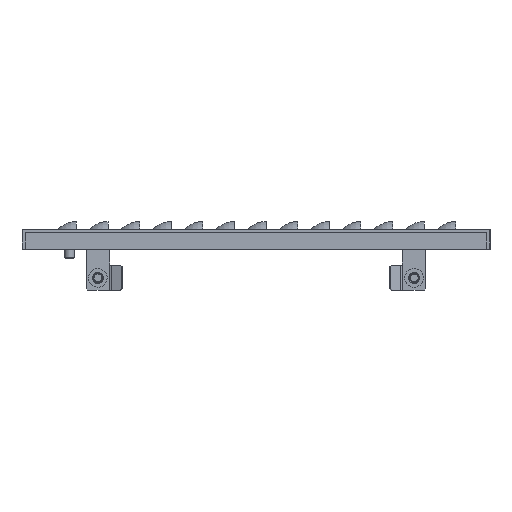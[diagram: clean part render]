
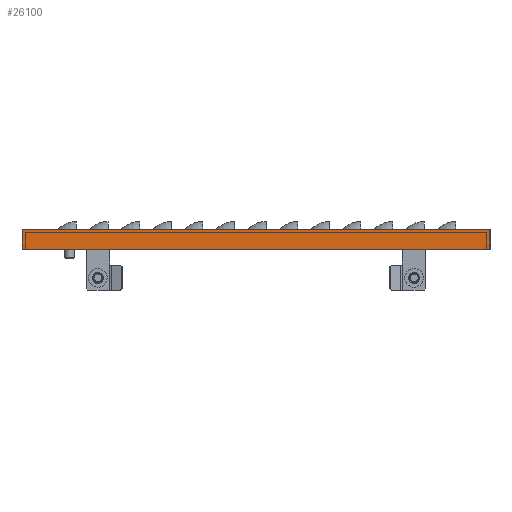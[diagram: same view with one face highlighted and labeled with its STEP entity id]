
A CAD part, left-side view. The second image highlights one B-rep face of the part: STEP entity #26100.
In plain terms, the highlighted planar face has unit normal (-1, 0, 0).
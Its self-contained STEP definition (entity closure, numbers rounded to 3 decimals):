
#28 = DIRECTION ( 'NONE',  ( 0., -1., 0. ) ) ;
#2334 = AXIS2_PLACEMENT_3D ( 'NONE', #33699, #42281, #24564 ) ;
#5776 = EDGE_CURVE ( 'NONE', #15137, #26856, #53900, .T. ) ;
#8610 = CARTESIAN_POINT ( 'NONE',  ( -595., -148., 0. ) ) ;
#8648 = LINE ( 'NONE', #26112, #50695 ) ;
#9343 = ORIENTED_EDGE ( 'NONE', *, *, #5776, .F. ) ;
#10446 = CARTESIAN_POINT ( 'NONE',  ( -595., -296., 2.928 ) ) ;
#13674 = DIRECTION ( 'NONE',  ( 0., 0., -1. ) ) ;
#15137 = VERTEX_POINT ( 'NONE', #42351 ) ;
#16688 = ORIENTED_EDGE ( 'NONE', *, *, #54239, .T. ) ;
#17178 = VERTEX_POINT ( 'NONE', #47167 ) ;
#17955 = CARTESIAN_POINT ( 'NONE',  ( -595., 0., 2.928 ) ) ;
#18466 = VECTOR ( 'NONE', #13674, 1000. ) ;
#21437 = VECTOR ( 'NONE', #47800, 1000. ) ;
#24564 = DIRECTION ( 'NONE',  ( 0., 0., 1. ) ) ;
#25458 = EDGE_CURVE ( 'NONE', #41011, #26856, #8648, .T. ) ;
#26100 = ADVANCED_FACE ( 'NONE', ( #46858 ), #37430, .F. ) ;
#26112 = CARTESIAN_POINT ( 'NONE',  ( -595., -148., -12.5 ) ) ;
#26856 = VERTEX_POINT ( 'NONE', #55006 ) ;
#27340 = DIRECTION ( 'NONE',  ( 0., 0., -1. ) ) ;
#33699 = CARTESIAN_POINT ( 'NONE',  ( -595., -148., -2. ) ) ;
#34269 = CARTESIAN_POINT ( 'NONE',  ( -595., 0., -12.5 ) ) ;
#37261 = VECTOR ( 'NONE', #27340, 1000. ) ;
#37430 = PLANE ( 'NONE',  #2334 ) ;
#39310 = EDGE_CURVE ( 'NONE', #17178, #41011, #43414, .T. ) ;
#41011 = VERTEX_POINT ( 'NONE', #34269 ) ;
#42281 = DIRECTION ( 'NONE',  ( 1., 0., 0. ) ) ;
#42351 = CARTESIAN_POINT ( 'NONE',  ( -595., -296., 0. ) ) ;
#43414 = LINE ( 'NONE', #17955, #18466 ) ;
#46300 = ORIENTED_EDGE ( 'NONE', *, *, #39310, .T. ) ;
#46858 = FACE_OUTER_BOUND ( 'NONE', #55641, .T. ) ;
#47167 = CARTESIAN_POINT ( 'NONE',  ( -595., 0., 0. ) ) ;
#47800 = DIRECTION ( 'NONE',  ( 0., 1., 0. ) ) ;
#50695 = VECTOR ( 'NONE', #28, 1000. ) ;
#52574 = ORIENTED_EDGE ( 'NONE', *, *, #25458, .T. ) ;
#53900 = LINE ( 'NONE', #10446, #37261 ) ;
#54239 = EDGE_CURVE ( 'NONE', #15137, #17178, #55538, .T. ) ;
#55006 = CARTESIAN_POINT ( 'NONE',  ( -595., -296., -12.5 ) ) ;
#55538 = LINE ( 'NONE', #8610, #21437 ) ;
#55641 = EDGE_LOOP ( 'NONE', ( #16688, #46300, #52574, #9343 ) ) ;
